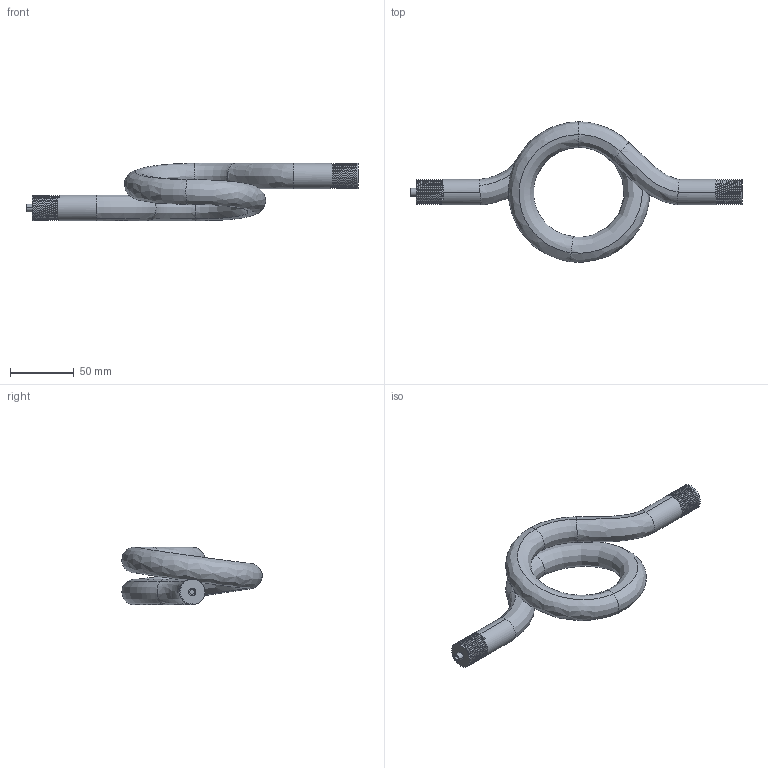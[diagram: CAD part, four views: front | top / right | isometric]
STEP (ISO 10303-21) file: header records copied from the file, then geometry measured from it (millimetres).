
FILE_DESCRIPTION (( 'STEP AP214' ), '1' );
FILE_NAME ('6308110.STEP', '2022-09-12T07:55:40', ( '' ), ( '' ), 'SwSTEP 2.0', 'SolidWorks 2022', '' );
FILE_SCHEMA (( 'AUTOMOTIVE_DESIGN' ));
Length unit declared in the file: millimetre
Products named in the file (1): 6308110
Bounding box: 259.75 x 109.74 x 45 mm (x, y, z)
Volume: 176709.7 mm3; surface area: 39340.5 mm2
Topology: 1 solids, 1 shells, 87 faces, 232 edges, 150 vertices
Faces by surface type: cylinder 60, bspline 18, plane 9
Entity records: 10263 total; most frequent: CARTESIAN_POINT 8531, ORIENTED_EDGE 464, DIRECTION 242, EDGE_CURVE 232, VERTEX_POINT 150, EDGE_LOOP 90, AXIS2_PLACEMENT_3D 90, ADVANCED_FACE 87
